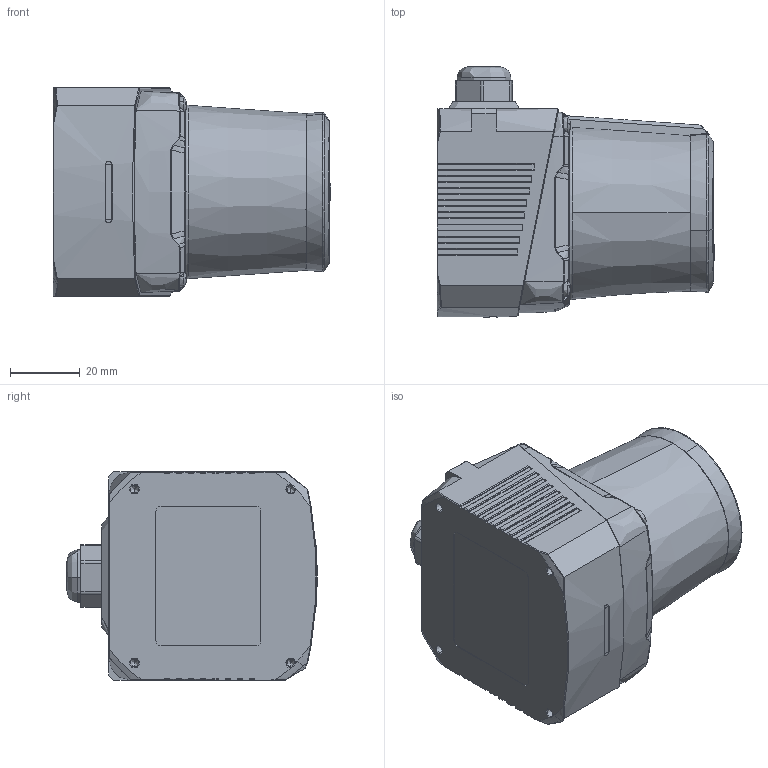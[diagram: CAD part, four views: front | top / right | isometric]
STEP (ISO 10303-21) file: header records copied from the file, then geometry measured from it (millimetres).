
FILE_DESCRIPTION (( 'STEP AP203' ), '1' );
FILE_NAME ('PAVO2三维模型简图.STEP', '2022-08-23T05:52:34', ( 'Windows 用户' ), ( 'China' ), 'SwSTEP 2.0', 'SolidWorks 2018', '' );
FILE_SCHEMA (( 'CONFIG_CONTROL_DESIGN' ));
Length unit declared in the file: millimetre
Products named in the file (8): P2203022-1(珆尨沭); P2202004-1(PAVO2階裔); 圆头十字不锈钢螺丝M2.5X8; P2101003-1（上罩）; PAVO2三维模型简图; 圆头十字不锈钢螺丝M2.5X16; 金属防水密封固定头; P2201009-2(PAVO2踢扽菁褲)
Assembly tree (9 placements, depth 2):
  PAVO2三维模型简图
    P2201009-2(PAVO2踢扽菁褲)
    P2101003-1（上罩）
    P2202004-1(PAVO2階裔)
    P2203022-1(珆尨沭)
    金属防水密封固定头
    圆头十字不锈钢螺丝M2.5X16  x2
    圆头十字不锈钢螺丝M2.5X8  x2
Bounding box: 79.96 x 71.97 x 60 mm (x, y, z)
Volume: 54672.3 mm3; surface area: 49746.6 mm2
Topology: 9 solids, 9 shells, 1308 faces, 3324 edges, 2065 vertices
Faces by surface type: plane 456, bspline 350, cylinder 259, cone 124, torus 107, sphere 12
Entity records: 55016 total; most frequent: CARTESIAN_POINT 27815, ORIENTED_EDGE 6064, DIRECTION 4632, EDGE_CURVE 3032, VERTEX_POINT 1889, AXIS2_PLACEMENT_3D 1708, EDGE_LOOP 1271, VECTOR 1216
